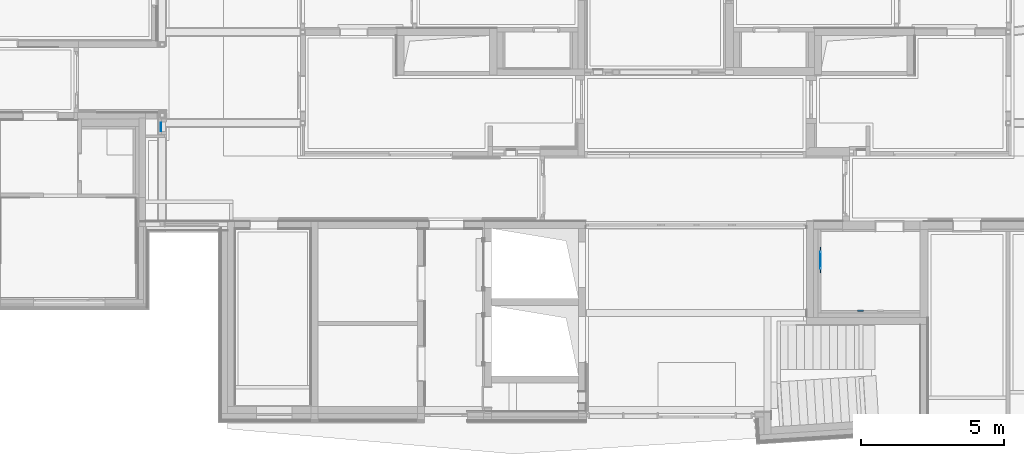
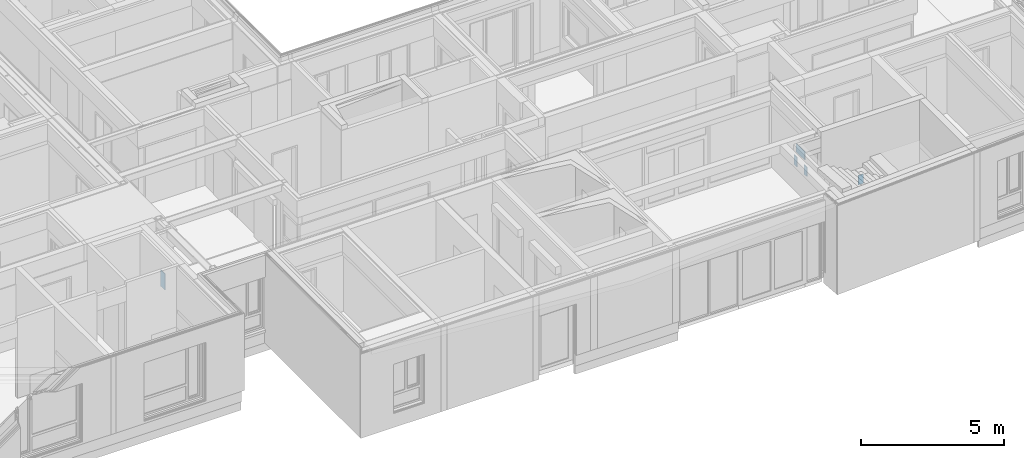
# One storey, part 153 of 207: 5 walls.
"""IFC4 building model written with IfcOpenShell, lengths in metres."""

from ifc_helpers import new_model, entity, si_unit, converted_unit, derived_unit, frame, origin, place, context, subcontext, project, spatial, faceted_brep, element, save


model = new_model("IFC4")

# Units and contexts
model_context = context("Model", 3, precision=1e-05, world=origin())
body_context = subcontext(model_context, "Body", "Model", "MODEL_VIEW")
ifc_project = project(units=[si_unit("LENGTHUNIT", "METRE"), si_unit("AREAUNIT", "SQUARE_METRE"), si_unit("VOLUMEUNIT", "CUBIC_METRE"), si_unit("MASSUNIT", "GRAM", prefix="KILO"), converted_unit("PLANEANGLEUNIT", "DEGREE", entity("IfcPlaneAngleMeasure", 0.0174532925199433), si_unit("PLANEANGLEUNIT", "RADIAN"), dimensions=[0, 0, 0, 0, 0, 0, 0]), derived_unit("THERMALTRANSMITTANCEUNIT", [(si_unit("POWERUNIT", "WATT"), 1), (si_unit("THERMODYNAMICTEMPERATUREUNIT", "KELVIN"), -1), (si_unit("LENGTHUNIT", "METRE"), -2)]), derived_unit("VOLUMETRICFLOWRATEUNIT", [(si_unit("LENGTHUNIT", "METRE"), 3), (converted_unit("TIMEUNIT", "hour", entity("IfcTimeMeasure", 3600.0), si_unit("TIMEUNIT", "SECOND"), dimensions=[0, 0, 1, 0, 0, 0, 0]), -1), (si_unit("LENGTHUNIT", "METRE"), -1)])], contexts=[model_context])

# Site, building, storey
site_placement = place(None, origin())
site = spatial("IfcSite", under=ifc_project, at=site_placement, Name="Psychiatrie Neubau Wunstorf", CompositionType="ELEMENT")
building_placement = place(site_placement, origin())
building = spatial("IfcBuilding", under=site, at=building_placement, Name="Neubau H2 Stationsgebäude", CompositionType="ELEMENT")
storey_placement = place(building_placement, frame((0.0, 0.0, -0.2)))
storey = spatial("IfcBuildingStorey", under=building, at=storey_placement, Name="H2 Ebene 0", CompositionType="ELEMENT", Elevation=-0.2)

# Walls
wall_1_placement = place(storey_placement, frame((60.0679718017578, -2.61349131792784, 0.63)))
element("IfcWall", 1, at=wall_1_placement, inside=storey, Name="WV 1.1", context=body_context, shape_type="Brep", body=[
    faceted_brep([(0.2, 0.0, 0.0), (0.2, 0.025, 0.0), (0.0, 0.025, 0.0), (0.0, 0.0, 0.0), (0.2, 0.025, 0.4), (0.2, 0.0, 0.4), (0.0, 0.0, 0.4), (0.0, 0.025, 0.4)], [[[0, 1, 2, 3]], [[4, 5, 6, 7]], [[1, 0, 5, 4]], [[2, 1, 4, 7]], [[3, 2, 7, 6]], [[0, 3, 6, 5]]], orient=[[False], [False], [False], [False], [False], [False]]),
])
for number, where, name in (
    (2, (58.7530000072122, -1.27961120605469, 0.63), "WV 1.1"),
    (3, (58.7530000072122, -0.579611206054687, 0.63), "WV 1.1"),
):
    element("IfcWall", number, at=place(storey_placement, frame(where)), inside=storey, Name=name, context=body_context, shape_type="Brep", body=[
        faceted_brep([(0.025, 0.2, 0.0), (0.0, 0.2, 0.0), (0.0, 0.0, 0.0), (0.025, 0.0, 0.0), (0.0, 0.2, 0.4), (0.025, 0.2, 0.4), (0.025, 0.0, 0.4), (0.0, 0.0, 0.4)], [[[0, 1, 2, 3]], [[4, 5, 6, 7]], [[1, 0, 5, 4]], [[2, 1, 4, 7]], [[3, 2, 7, 6]], [[0, 3, 6, 5]]], orient=[[False], [False], [False], [False], [False], [False]]),
    ])
wall_2_placement = place(storey_placement, frame((58.7530000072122, -1.12961120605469, 1.25)))
element("IfcWall", 4, at=wall_2_placement, inside=storey, Name="WV 1.1", context=body_context, shape_type="Brep", body=[
    faceted_brep([(0.025, 0.6, 0.0), (0.0, 0.6, 0.0), (0.0, 0.0, 0.0), (0.025, 0.0, 0.0), (0.0, 0.6, 0.35), (0.025, 0.6, 0.35), (0.025, 0.0, 0.35), (0.0, 0.0, 0.35)], [[[0, 1, 2, 3]], [[4, 5, 6, 7]], [[1, 0, 5, 4]], [[2, 1, 4, 7]], [[3, 2, 7, 6]], [[0, 3, 6, 5]]], orient=[[False], [False], [False], [False], [False], [False]]),
])
wall_3_placement = place(storey_placement, frame((35.6895, 3.681697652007, 0.85)))
element("IfcWall", 5, at=wall_3_placement, inside=storey, Name="WV 1.1", context=body_context, shape_type="Brep", body=[
    faceted_brep([(0.025, 0.3, 0.0), (0.0, 0.3, 0.0), (0.0, 0.0, 0.0), (0.025, 0.0, 0.0), (0.0, 0.3, 0.7), (0.025, 0.3, 0.7), (0.025, 0.0, 0.7), (0.0, 0.0, 0.7)], [[[0, 1, 2, 3]], [[4, 5, 6, 7]], [[1, 0, 5, 4]], [[2, 1, 4, 7]], [[3, 2, 7, 6]], [[0, 3, 6, 5]]], orient=[[False], [False], [False], [False], [False], [False]]),
])

save(model, "model.ifc")
